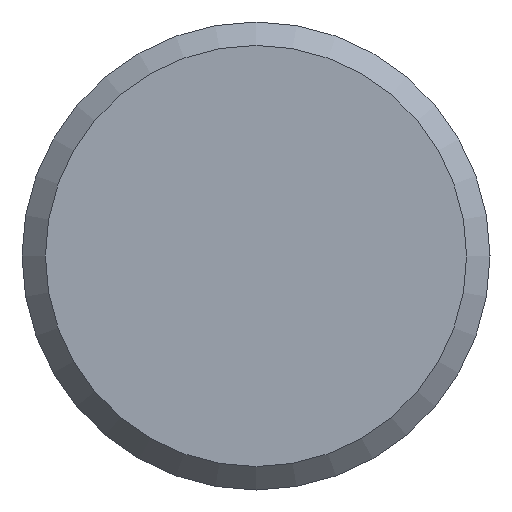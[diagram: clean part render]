
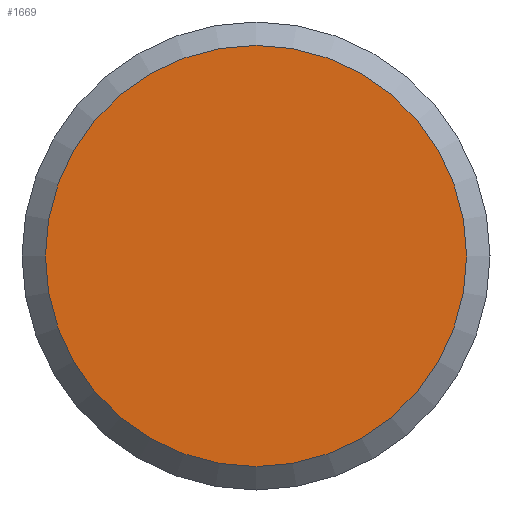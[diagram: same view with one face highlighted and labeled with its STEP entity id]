
A CAD part, left-side view. The second image highlights one B-rep face of the part: STEP entity #1669.
In plain terms, the highlighted planar face has unit normal (-1, 0, 0).
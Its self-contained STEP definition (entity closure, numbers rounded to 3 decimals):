
#593=PLANE('',#1534);
#635=ORIENTED_EDGE('',*,*,#847,.F.);
#737=CIRCLE('',#1533,9.);
#792=VERTEX_POINT('',#1369);
#847=EDGE_CURVE('',#792,#792,#737,.T.);
#910=EDGE_LOOP('',(#635));
#1020=FACE_BOUND('',#910,.T.);
#1145=DIRECTION('',(1.,0.,0.));
#1146=DIRECTION('',(0.,-9.,0.));
#1147=DIRECTION('',(-1.,0.,0.));
#1148=DIRECTION('',(0.,1.,0.));
#1369=CARTESIAN_POINT('',(0.,-9.,0.));
#1370=CARTESIAN_POINT('',(0.,0.,0.));
#1371=CARTESIAN_POINT('',(0.,0.,0.));
#1533=AXIS2_PLACEMENT_3D('',#1370,#1145,#1146);
#1534=AXIS2_PLACEMENT_3D('',#1371,#1147,#1148);
#1669=ADVANCED_FACE('',(#1020),#593,.T.);
